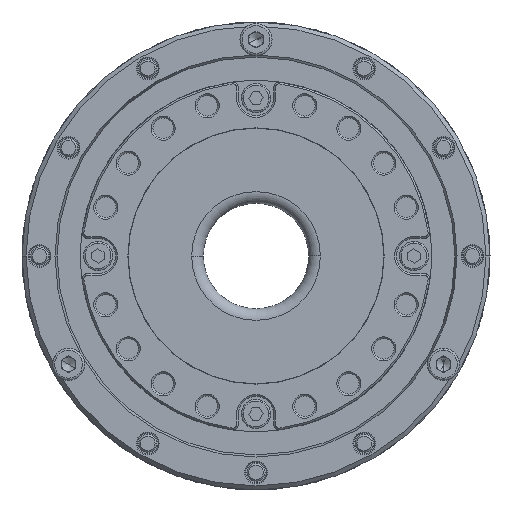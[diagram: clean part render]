
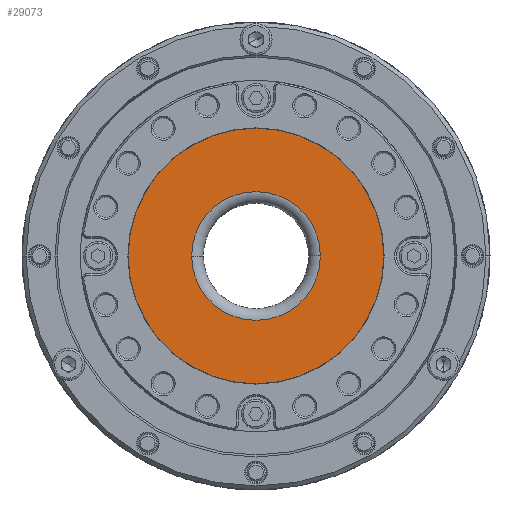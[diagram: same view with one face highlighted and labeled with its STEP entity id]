
A CAD part, front view. The second image highlights one B-rep face of the part: STEP entity #29073.
In plain terms, the highlighted planar face has unit normal (0, -1, 0).
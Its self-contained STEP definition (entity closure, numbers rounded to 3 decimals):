
#2138 = FACE_OUTER_BOUND ( 'NONE', #18172, .T. ) ;
#2275 = FACE_BOUND ( 'NONE', #8845, .T. ) ;
#2441 = AXIS2_PLACEMENT_3D ( 'NONE', #14317, #9856, #20727 ) ;
#2868 = ORIENTED_EDGE ( 'NONE', *, *, #28346, .T. ) ;
#3129 = CARTESIAN_POINT ( 'NONE',  ( 21.85, -29.4, 0. ) ) ;
#4187 = PLANE ( 'NONE',  #13577 ) ;
#4460 = CARTESIAN_POINT ( 'NONE',  ( 0., -29.4, 0. ) ) ;
#5034 = DIRECTION ( 'NONE',  ( 1., 0., 0. ) ) ;
#6041 = VERTEX_POINT ( 'NONE', #19407 ) ;
#7179 = CIRCLE ( 'NONE', #2441, 11. ) ;
#8845 = EDGE_LOOP ( 'NONE', ( #23479, #21422 ) ) ;
#9163 = CIRCLE ( 'NONE', #25757, 11. ) ;
#9856 = DIRECTION ( 'NONE',  ( 0., 1., 0. ) ) ;
#10275 = DIRECTION ( 'NONE',  ( 1., 0., 0. ) ) ;
#10770 = VERTEX_POINT ( 'NONE', #12928 ) ;
#11791 = DIRECTION ( 'NONE',  ( 0., -1., 0. ) ) ;
#12928 = CARTESIAN_POINT ( 'NONE',  ( -21.85, -29.4, 0. ) ) ;
#13577 = AXIS2_PLACEMENT_3D ( 'NONE', #17876, #15521, #27079 ) ;
#14123 = EDGE_CURVE ( 'NONE', #17693, #6041, #7179, .T. ) ;
#14317 = CARTESIAN_POINT ( 'NONE',  ( 0., -29.4, 0. ) ) ;
#14604 = CARTESIAN_POINT ( 'NONE',  ( 0., -29.4, 0. ) ) ;
#15521 = DIRECTION ( 'NONE',  ( 0., -1., 0. ) ) ;
#15665 = CARTESIAN_POINT ( 'NONE',  ( -11., -29.4, 0. ) ) ;
#16372 = CIRCLE ( 'NONE', #25371, 21.85 ) ;
#17693 = VERTEX_POINT ( 'NONE', #15665 ) ;
#17876 = CARTESIAN_POINT ( 'NONE',  ( 0., -29.4, 0. ) ) ;
#18172 = EDGE_LOOP ( 'NONE', ( #2868, #28442 ) ) ;
#19192 = DIRECTION ( 'NONE',  ( 0., -1., 0. ) ) ;
#19407 = CARTESIAN_POINT ( 'NONE',  ( 11., -29.4, 0. ) ) ;
#20727 = DIRECTION ( 'NONE',  ( 1., 0., 0. ) ) ;
#21422 = ORIENTED_EDGE ( 'NONE', *, *, #14123, .T. ) ;
#23000 = CIRCLE ( 'NONE', #26772, 21.85 ) ;
#23479 = ORIENTED_EDGE ( 'NONE', *, *, #26450, .T. ) ;
#23518 = VERTEX_POINT ( 'NONE', #3129 ) ;
#23677 = DIRECTION ( 'NONE',  ( 1., 0., 0. ) ) ;
#25371 = AXIS2_PLACEMENT_3D ( 'NONE', #26326, #19192, #10275 ) ;
#25426 = DIRECTION ( 'NONE',  ( 0., 1., 0. ) ) ;
#25757 = AXIS2_PLACEMENT_3D ( 'NONE', #4460, #25426, #5034 ) ;
#26326 = CARTESIAN_POINT ( 'NONE',  ( 0., -29.4, 0. ) ) ;
#26450 = EDGE_CURVE ( 'NONE', #6041, #17693, #9163, .T. ) ;
#26772 = AXIS2_PLACEMENT_3D ( 'NONE', #14604, #11791, #23677 ) ;
#27079 = DIRECTION ( 'NONE',  ( 1., 0., 0. ) ) ;
#27620 = EDGE_CURVE ( 'NONE', #10770, #23518, #23000, .T. ) ;
#28346 = EDGE_CURVE ( 'NONE', #23518, #10770, #16372, .T. ) ;
#28442 = ORIENTED_EDGE ( 'NONE', *, *, #27620, .T. ) ;
#29073 = ADVANCED_FACE ( 'NONE', ( #2275, #2138 ), #4187, .T. ) ;
